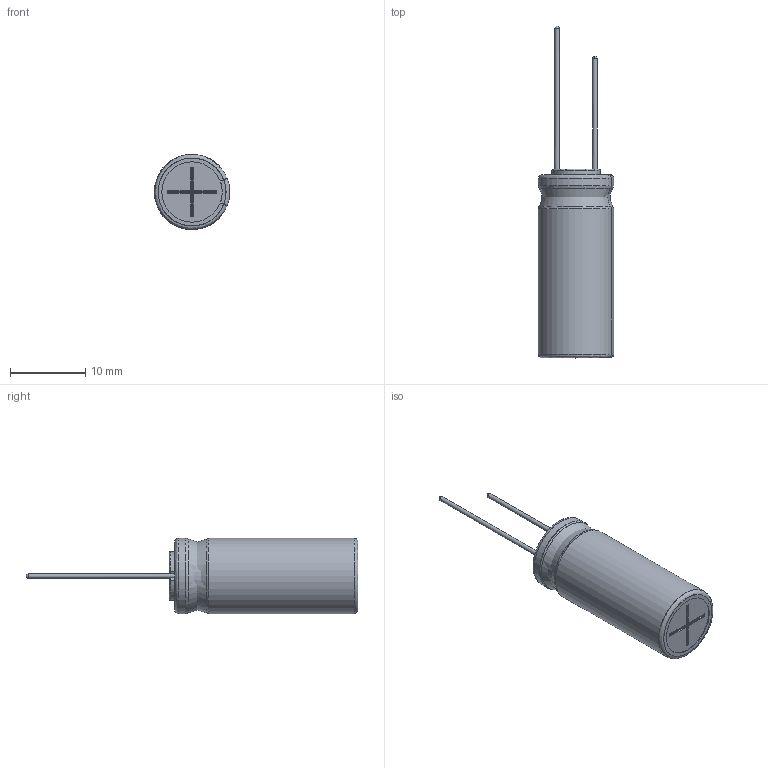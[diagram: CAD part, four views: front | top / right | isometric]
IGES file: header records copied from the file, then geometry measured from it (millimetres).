
Start section: JAMA-IS VERSION  1.0
Bounding box: 9.99 x 44 x 10 mm (x, y, z)
Surface area: 2577.8 mm2 (no closed solid volume)
Topology: 0 solids, 0 shells, 115 faces, 1315 edges, 1296 vertices
Faces by surface type: bspline 115
